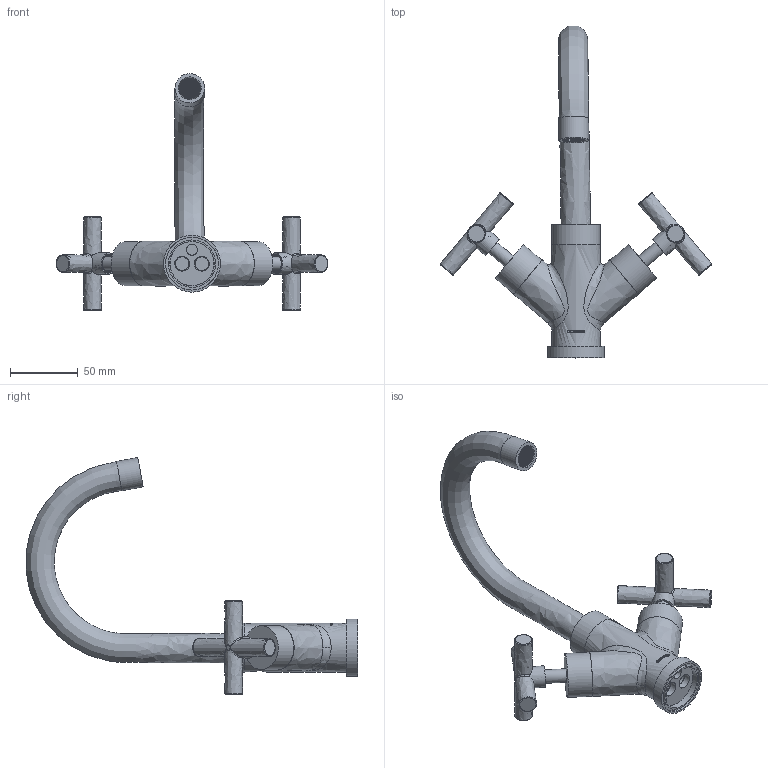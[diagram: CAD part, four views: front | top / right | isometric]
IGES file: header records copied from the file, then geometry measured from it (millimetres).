
Global section: file name: b990af8d-a436-4e3c-a4b5-b26fee4e7a82; native system: unknown; preprocessor: unknown; author: unknown; organization: unknown; date: 20191209.152048; units: millimetre
Bounding box: 200.52 x 245.03 x 174.85 mm (x, y, z)
Volume: 277982.6 mm3; surface area: 100362 mm2
Topology: 38 solids, 38 shells, 3093 faces, 9186 edges, 6157 vertices
Faces by surface type: bspline 3093
